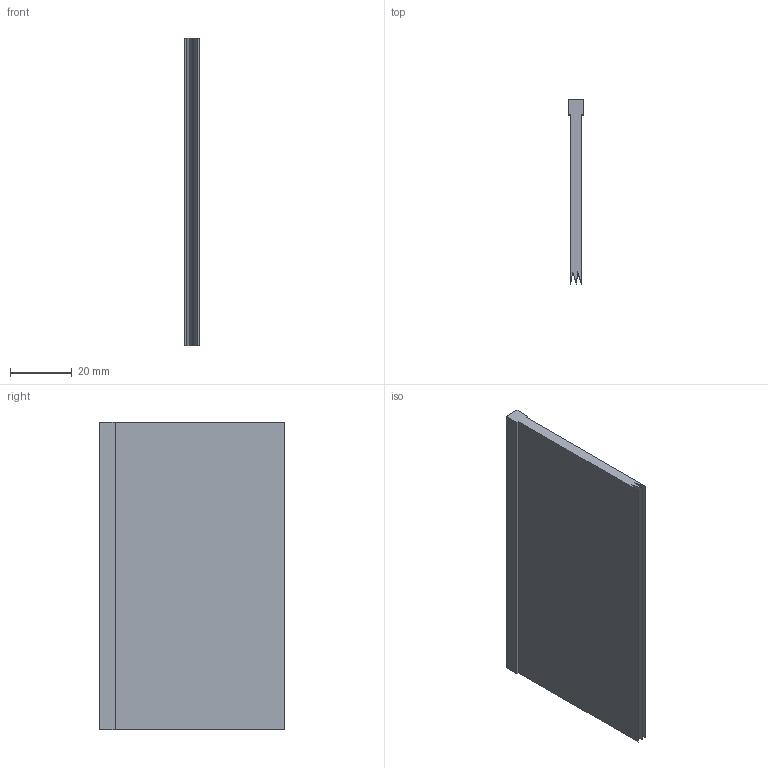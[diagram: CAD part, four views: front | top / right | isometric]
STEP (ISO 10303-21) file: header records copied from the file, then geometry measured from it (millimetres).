
FILE_DESCRIPTION(/* description */ ('BRUSH 60x5 MM'),/* implementation_level */ '2;1');
FILE_NAME(/* name */ '\\carryline.intra\privat\users\mathias\Desktop\Tillfälliga filer\300-3062.stp',/* time_stamp */ '2018-11-30T09:48:41+01:00',/* author */ ('MD'),/* organization */ ('CARRYLINE'),/* preprocessor_version */ 'ST-DEVELOPER v17',/* originating_system */ 'Autodesk Inventor 2018',/* authorisation */ '');
FILE_SCHEMA (('AUTOMOTIVE_DESIGN { 1 0 10303 214 3 1 1 }'));
Length unit declared in the file: millimetre
Products named in the file (1): 300-3062
Bounding box: 5 x 60 x 100 mm (x, y, z)
Volume: 21048.7 mm3; surface area: 14727.3 mm2
Topology: 1 solids, 1 shells, 13 faces, 33 edges, 22 vertices
Faces by surface type: plane 13
Entity records: 426 total; most frequent: CARTESIAN_POINT 69, ORIENTED_EDGE 66, DIRECTION 61, LINE 33, VECTOR 33, EDGE_CURVE 33, VERTEX_POINT 22, AXIS2_PLACEMENT_3D 14
